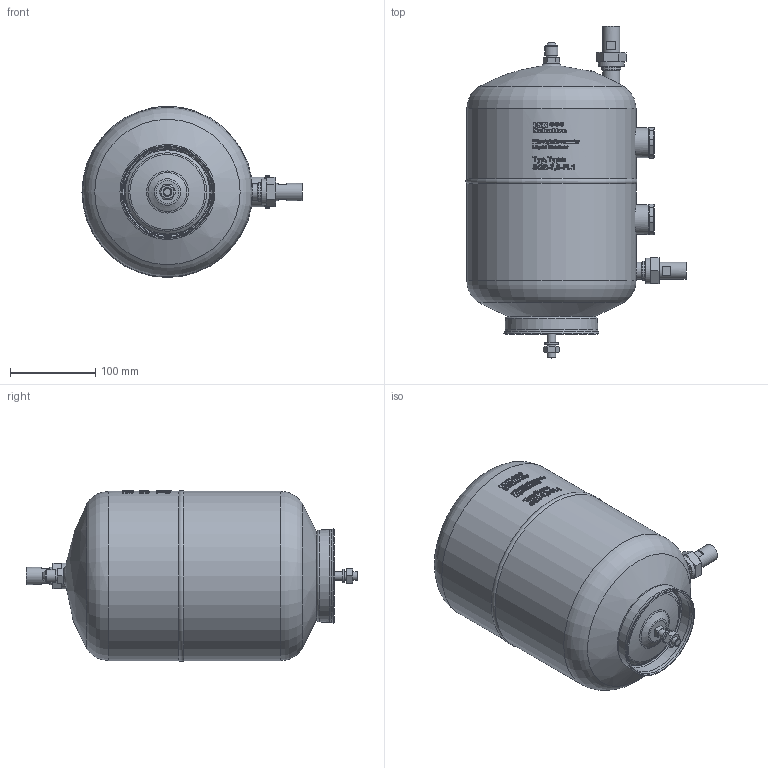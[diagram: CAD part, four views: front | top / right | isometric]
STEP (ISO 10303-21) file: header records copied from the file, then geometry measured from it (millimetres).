
FILE_DESCRIPTION(/* description */ (''),/* implementation_level */ '2;1');
FILE_NAME(/* name */ '\\SRV-DC1\Zentraledaten\Technik\ACAD\Arbeitsordner\Tran\Geräte\Flüssigkeitssammler\SGS-7,5-FL1\SGS-7,5-FL1.stp',/* time_stamp */ '2018-09-12T10:28:39+02:00',/* author */ ('Tran'),/* organization */ (''),/* preprocessor_version */ 'ST-DEVELOPER v16.1',/* originating_system */ 'Autodesk Inventor 2016',/* authorisation */ '');
FILE_SCHEMA (('AUTOMOTIVE_DESIGN { 1 0 10303 214 3 1 1 }'));
Length unit declared in the file: millimetre
Products named in the file (4): SGS-7,5-FL1_AG-Kunde; LF-1-16; RN 1; SGS-7,5-FL1_AG-Kunde_1
Assembly tree (5 placements, depth 2):
  SGS-7,5-FL1_AG-Kunde_1
    SGS-7,5-FL1_AG-Kunde
    LF-1-16  x2
    RN 1  x2
Bounding box: 257.46 x 388.45 x 200.03 mm (x, y, z)
Volume: 8356989.2 mm3; surface area: 259320 mm2
Topology: 6 solids, 6 shells, 1375 faces, 3579 edges, 2354 vertices
Faces by surface type: plane 740, bspline 393, cylinder 173, cone 53, torus 11, sphere 5
Full cylindrical faces by diameter (mm): 7.2 x1, 10 x2, 13.3 x2, 13.5 x4, 15.312 x1, 15.75 x2, 15.87 x2, 16.2 x2, 16.9 x2, 17 x1, 18.1 x2, 19.05 x2, 20 x2, 20.1 x2, 20.5 x2, 22.5 x4, 23.2 x2, 23.6 x2, 24.2 x2, 25.2 x2, 30 x2, 32.15 x2, 35 x2, 198 x2
Entity records: 49419 total; most frequent: CARTESIAN_POINT 18465, ORIENTED_EDGE 6844, DIRECTION 5449, EDGE_CURVE 3410, VERTEX_POINT 2292, AXIS2_PLACEMENT_3D 1933, LINE 1583, VECTOR 1583
